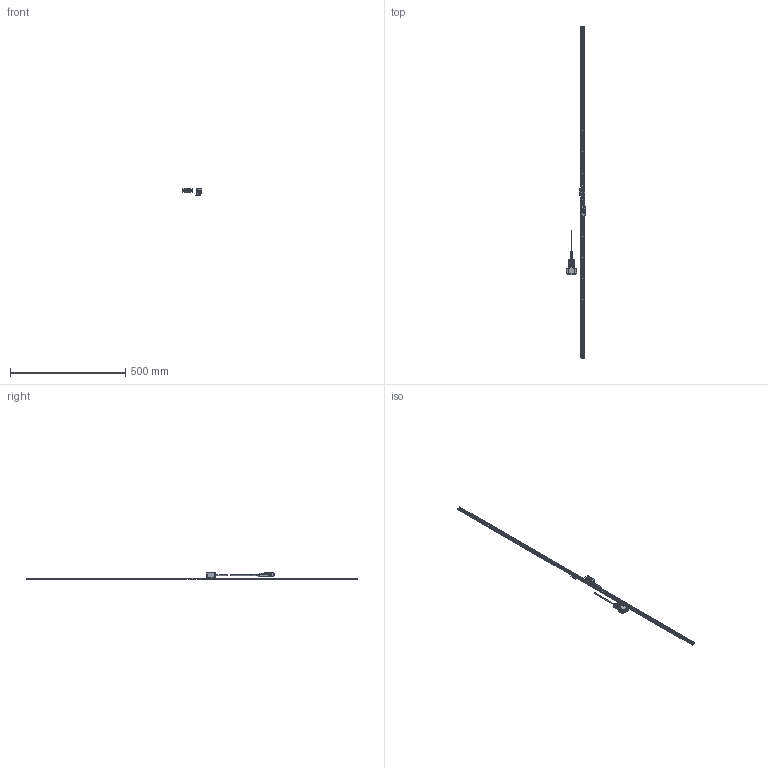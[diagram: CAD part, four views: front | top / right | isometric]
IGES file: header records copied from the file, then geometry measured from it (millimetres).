
Start section: Elysium IGES Interface
Global section: file name: 92HK:\20_商品設計\設計１課\個人\山室\05_作業中雑務\20220810_ST1300 3D HP掲載\ST1300-1400F_G.igs; native system: Creo Elements/Direct Modeling 18.1I  13-Aug-2016; preprocessor: Creo Element/Direct IGES_3D V2.2; author: Unknown; organization: Unknown; date: 20220816.104448; units: millimetre
Bounding box: 83 x 1440 x 30.1 mm (x, y, z)
Volume: 138334.4 mm3; surface area: 84131.1 mm2
Topology: 3 solids, 6 shells, 3582 faces, 9834 edges, 6406 vertices
Faces by surface type: bspline 3582
